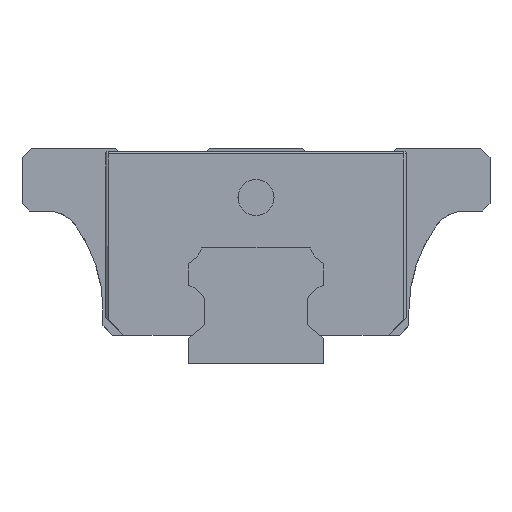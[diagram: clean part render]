
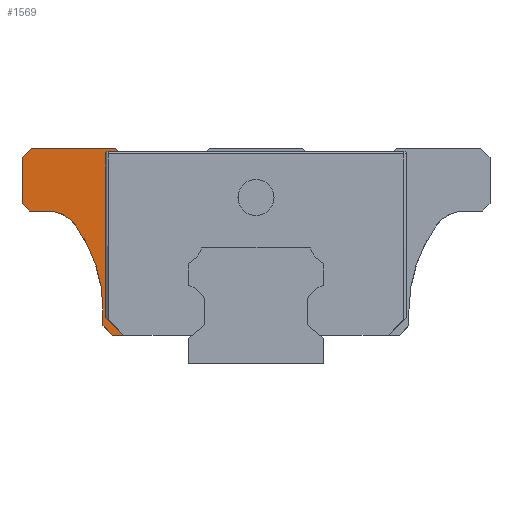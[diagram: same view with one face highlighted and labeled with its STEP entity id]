
A CAD part, left-side view. The second image highlights one B-rep face of the part: STEP entity #1569.
In plain terms, the highlighted planar face has unit normal (-1, 0, 0).
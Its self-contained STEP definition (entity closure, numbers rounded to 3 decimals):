
#82 = VERTEX_POINT ( 'NONE', #5772 ) ;
#134 = CARTESIAN_POINT ( 'NONE',  ( -19.75, 16.442, 23.595 ) ) ;
#169 = VERTEX_POINT ( 'NONE', #1107 ) ;
#178 = ORIENTED_EDGE ( 'NONE', *, *, #5424, .F. ) ;
#244 = CARTESIAN_POINT ( 'NONE',  ( -19.75, 16.702, 23.125 ) ) ;
#299 = CARTESIAN_POINT ( 'NONE',  ( -19.75, 16.702, 5.2 ) ) ;
#392 = VECTOR ( 'NONE', #4000, 1000. ) ;
#442 = DIRECTION ( 'NONE',  ( 0., 0., 1. ) ) ;
#558 = CARTESIAN_POINT ( 'NONE',  ( -19.75, 16.702, 23.335 ) ) ;
#716 = EDGE_CURVE ( 'NONE', #6421, #1419, #2420, .T. ) ;
#759 = DIRECTION ( 'NONE',  ( -1., 0., 0. ) ) ;
#876 = DIRECTION ( 'NONE',  ( 0., 1., 0. ) ) ;
#904 = CIRCLE ( 'NONE', #7051, 16. ) ;
#913 = VECTOR ( 'NONE', #6846, 1000. ) ;
#1058 = AXIS2_PLACEMENT_3D ( 'NONE', #2491, #6141, #3713 ) ;
#1090 = CARTESIAN_POINT ( 'NONE',  ( -19.75, 16.442, 23.335 ) ) ;
#1107 = CARTESIAN_POINT ( 'NONE',  ( -19.75, 17., 6. ) ) ;
#1280 = ORIENTED_EDGE ( 'NONE', *, *, #6801, .T. ) ;
#1289 = CARTESIAN_POINT ( 'NONE',  ( -19.75, 17.674, 3.2 ) ) ;
#1370 = VECTOR ( 'NONE', #6962, 1000. ) ;
#1419 = VERTEX_POINT ( 'NONE', #5931 ) ;
#1444 = ORIENTED_EDGE ( 'NONE', *, *, #3085, .T. ) ;
#1457 = CARTESIAN_POINT ( 'NONE',  ( -19.75, 24.95, 24. ) ) ;
#1466 = LINE ( 'NONE', #244, #913 ) ;
#1514 = VERTEX_POINT ( 'NONE', #558 ) ;
#1521 = CARTESIAN_POINT ( 'NONE',  ( -19.75, 23.253, 17. ) ) ;
#1526 = VECTOR ( 'NONE', #4693, 1000. ) ;
#1564 = CARTESIAN_POINT ( 'NONE',  ( -19.75, 15.6, 24. ) ) ;
#1569 = ADVANCED_FACE ( 'NONE', ( #4807 ), #4686, .T. ) ;
#1621 = EDGE_CURVE ( 'NONE', #6510, #3033, #3822, .T. ) ;
#1745 = DIRECTION ( 'NONE',  ( 1., 0., 0. ) ) ;
#1764 = CARTESIAN_POINT ( 'NONE',  ( -19.75, 24.95, 24. ) ) ;
#1797 = DIRECTION ( 'NONE',  ( 0., -1., 0. ) ) ;
#1806 = EDGE_CURVE ( 'NONE', #6821, #6611, #6249, .T. ) ;
#1818 = AXIS2_PLACEMENT_3D ( 'NONE', #1090, #6389, #5284 ) ;
#1858 = DIRECTION ( 'NONE',  ( 0., 0., 1. ) ) ;
#2156 = CARTESIAN_POINT ( 'NONE',  ( -19.75, 25.2, 17. ) ) ;
#2168 = LINE ( 'NONE', #2598, #1370 ) ;
#2229 = VECTOR ( 'NONE', #876, 1000. ) ;
#2402 = EDGE_CURVE ( 'NONE', #6907, #6149, #6193, .T. ) ;
#2420 = LINE ( 'NONE', #1289, #4758 ) ;
#2491 = CARTESIAN_POINT ( 'NONE',  ( -19.75, 23.253, 13. ) ) ;
#2564 = CARTESIAN_POINT ( 'NONE',  ( -19.75, 26., 22.95 ) ) ;
#2598 = CARTESIAN_POINT ( 'NONE',  ( -19.75, 26., 24. ) ) ;
#2676 = EDGE_CURVE ( 'NONE', #5353, #6510, #2168, .T. ) ;
#2750 = CARTESIAN_POINT ( 'NONE',  ( -19.75, 15.6, 24. ) ) ;
#2807 = ORIENTED_EDGE ( 'NONE', *, *, #1621, .T. ) ;
#2831 = VECTOR ( 'NONE', #3075, 1000. ) ;
#2838 = CARTESIAN_POINT ( 'NONE',  ( -19.75, 20.004, 15.333 ) ) ;
#3030 = ORIENTED_EDGE ( 'NONE', *, *, #2402, .T. ) ;
#3033 = VERTEX_POINT ( 'NONE', #7439 ) ;
#3068 = EDGE_CURVE ( 'NONE', #3033, #6907, #5575, .T. ) ;
#3075 = DIRECTION ( 'NONE',  ( 0., -0.707, -0.707 ) ) ;
#3085 = EDGE_CURVE ( 'NONE', #6611, #5353, #4405, .T. ) ;
#3113 = VECTOR ( 'NONE', #4509, 1000. ) ;
#3403 = ORIENTED_EDGE ( 'NONE', *, *, #7727, .T. ) ;
#3420 = CARTESIAN_POINT ( 'NONE',  ( -19.75, 17., 4.25 ) ) ;
#3487 = EDGE_CURVE ( 'NONE', #82, #1419, #5603, .T. ) ;
#3623 = CARTESIAN_POINT ( 'NONE',  ( -19.75, -6.587, 3.2 ) ) ;
#3713 = DIRECTION ( 'NONE',  ( 0., 0., 1. ) ) ;
#3783 = VECTOR ( 'NONE', #3881, 1000. ) ;
#3822 = LINE ( 'NONE', #7410, #2831 ) ;
#3881 = DIRECTION ( 'NONE',  ( 0., 0.643, 0.766 ) ) ;
#3932 = CARTESIAN_POINT ( 'NONE',  ( -19.75, 26., 17.8 ) ) ;
#4000 = DIRECTION ( 'NONE',  ( 0., 1., 0. ) ) ;
#4405 = LINE ( 'NONE', #1457, #5124 ) ;
#4443 = EDGE_LOOP ( 'NONE', ( #1444, #6815, #2807, #5923, #3030, #7147, #5295, #3403, #5434, #7686, #178, #6563, #7339, #1280, #5017 ) ) ;
#4509 = DIRECTION ( 'NONE',  ( 0., -0.707, -0.707 ) ) ;
#4678 = LINE ( 'NONE', #3420, #6291 ) ;
#4686 = PLANE ( 'NONE',  #7726 ) ;
#4693 = DIRECTION ( 'NONE',  ( 0., 0., -1. ) ) ;
#4758 = VECTOR ( 'NONE', #1797, 1000. ) ;
#4807 = FACE_OUTER_BOUND ( 'NONE', #4443, .T. ) ;
#4837 = EDGE_CURVE ( 'NONE', #1514, #4901, #6072, .T. ) ;
#4901 = VERTEX_POINT ( 'NONE', #134 ) ;
#5017 = ORIENTED_EDGE ( 'NONE', *, *, #1806, .T. ) ;
#5124 = VECTOR ( 'NONE', #6761, 1000. ) ;
#5284 = DIRECTION ( 'NONE',  ( 0., 0., 1. ) ) ;
#5295 = ORIENTED_EDGE ( 'NONE', *, *, #7418, .T. ) ;
#5353 = VERTEX_POINT ( 'NONE', #2564 ) ;
#5424 = EDGE_CURVE ( 'NONE', #1514, #82, #1466, .T. ) ;
#5434 = ORIENTED_EDGE ( 'NONE', *, *, #716, .T. ) ;
#5575 = LINE ( 'NONE', #2156, #6383 ) ;
#5603 = LINE ( 'NONE', #299, #3113 ) ;
#5643 = CARTESIAN_POINT ( 'NONE',  ( -19.75, 15.233, 23.563 ) ) ;
#5772 = CARTESIAN_POINT ( 'NONE',  ( -19.75, 16.702, 5.2 ) ) ;
#5923 = ORIENTED_EDGE ( 'NONE', *, *, #3068, .T. ) ;
#5931 = CARTESIAN_POINT ( 'NONE',  ( -19.75, 14.702, 3.2 ) ) ;
#5962 = DIRECTION ( 'NONE',  ( 0., -0.707, -0.707 ) ) ;
#5998 = EDGE_CURVE ( 'NONE', #6969, #4901, #6505, .T. ) ;
#6072 = CIRCLE ( 'NONE', #1818, 0.26 ) ;
#6137 = EDGE_CURVE ( 'NONE', #6149, #169, #904, .T. ) ;
#6141 = DIRECTION ( 'NONE',  ( 1., 0., 0. ) ) ;
#6149 = VERTEX_POINT ( 'NONE', #2838 ) ;
#6193 = CIRCLE ( 'NONE', #1058, 4. ) ;
#6249 = LINE ( 'NONE', #2750, #2229 ) ;
#6291 = VECTOR ( 'NONE', #5962, 1000. ) ;
#6383 = VECTOR ( 'NONE', #6837, 1000. ) ;
#6389 = DIRECTION ( 'NONE',  ( 1., 0., 0. ) ) ;
#6421 = VERTEX_POINT ( 'NONE', #7441 ) ;
#6458 = CARTESIAN_POINT ( 'NONE',  ( -19.75, 17., 6. ) ) ;
#6505 = LINE ( 'NONE', #6544, #392 ) ;
#6510 = VERTEX_POINT ( 'NONE', #3932 ) ;
#6544 = CARTESIAN_POINT ( 'NONE',  ( -19.75, -18.027, 23.595 ) ) ;
#6563 = ORIENTED_EDGE ( 'NONE', *, *, #4837, .T. ) ;
#6592 = VERTEX_POINT ( 'NONE', #7663 ) ;
#6611 = VERTEX_POINT ( 'NONE', #1764 ) ;
#6761 = DIRECTION ( 'NONE',  ( 0., 0.707, -0.707 ) ) ;
#6801 = EDGE_CURVE ( 'NONE', #6969, #6821, #7537, .T. ) ;
#6815 = ORIENTED_EDGE ( 'NONE', *, *, #2676, .T. ) ;
#6821 = VERTEX_POINT ( 'NONE', #1564 ) ;
#6837 = DIRECTION ( 'NONE',  ( 0., -1., 0. ) ) ;
#6846 = DIRECTION ( 'NONE',  ( 0., 0., -1. ) ) ;
#6907 = VERTEX_POINT ( 'NONE', #1521 ) ;
#6962 = DIRECTION ( 'NONE',  ( 0., 0., -1. ) ) ;
#6969 = VERTEX_POINT ( 'NONE', #6985 ) ;
#6985 = CARTESIAN_POINT ( 'NONE',  ( -19.75, 15.26, 23.595 ) ) ;
#7010 = CARTESIAN_POINT ( 'NONE',  ( -19.75, 33., 6. ) ) ;
#7051 = AXIS2_PLACEMENT_3D ( 'NONE', #7010, #1745, #442 ) ;
#7092 = LINE ( 'NONE', #6458, #1526 ) ;
#7147 = ORIENTED_EDGE ( 'NONE', *, *, #6137, .T. ) ;
#7339 = ORIENTED_EDGE ( 'NONE', *, *, #5998, .F. ) ;
#7410 = CARTESIAN_POINT ( 'NONE',  ( -19.75, 26., 17.8 ) ) ;
#7418 = EDGE_CURVE ( 'NONE', #169, #6592, #7092, .T. ) ;
#7439 = CARTESIAN_POINT ( 'NONE',  ( -19.75, 25.2, 17. ) ) ;
#7441 = CARTESIAN_POINT ( 'NONE',  ( -19.75, 15.95, 3.2 ) ) ;
#7537 = LINE ( 'NONE', #5643, #3783 ) ;
#7663 = CARTESIAN_POINT ( 'NONE',  ( -19.75, 17., 4.25 ) ) ;
#7686 = ORIENTED_EDGE ( 'NONE', *, *, #3487, .F. ) ;
#7726 = AXIS2_PLACEMENT_3D ( 'NONE', #3623, #759, #1858 ) ;
#7727 = EDGE_CURVE ( 'NONE', #6592, #6421, #4678, .T. ) ;
